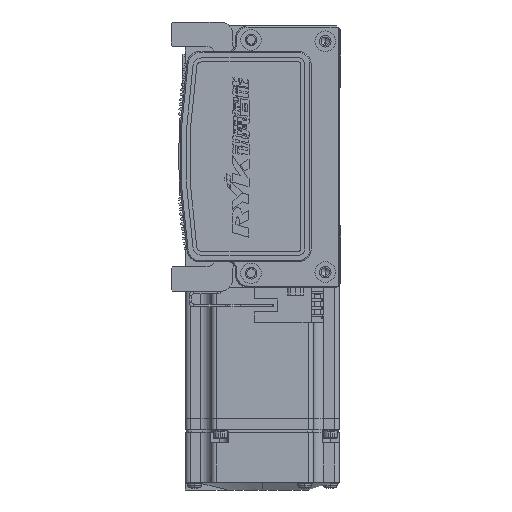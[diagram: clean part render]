
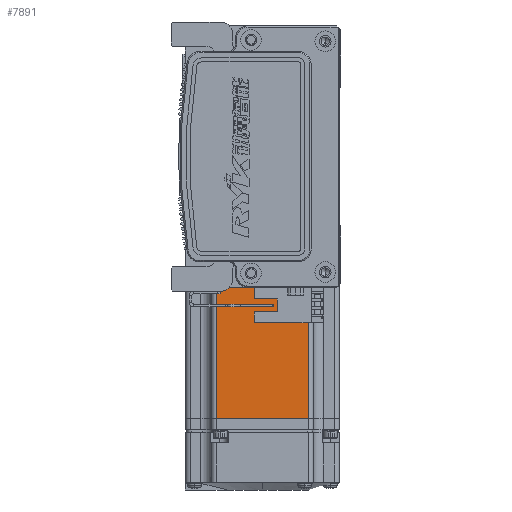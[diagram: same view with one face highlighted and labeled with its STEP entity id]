
A CAD part, left-side view. The second image highlights one B-rep face of the part: STEP entity #7891.
In plain terms, the highlighted planar face has unit normal (-1, 0, 0) as drawn and (0, 0, 1) by its records, which use the part's own axes.
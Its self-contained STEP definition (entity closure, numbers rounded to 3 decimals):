
#911 = LINE ( 'NONE', #56880, #29102 ) ;
#1606 = EDGE_CURVE ( 'NONE', #20254, #50982, #911, .T. ) ;
#4353 = DIRECTION ( 'NONE',  ( -1., 0., 0. ) ) ;
#4564 = CARTESIAN_POINT ( 'NONE',  ( -6.5, 18., 30. ) ) ;
#7065 = CARTESIAN_POINT ( 'NONE',  ( -7.75, -18., 30. ) ) ;
#7891 = ADVANCED_FACE ( 'NONE', ( #34193 ), #61605, .T. ) ;
#17544 = DIRECTION ( 'NONE',  ( 0., -1., 0. ) ) ;
#20254 = VERTEX_POINT ( 'NONE', #31106 ) ;
#21629 = DIRECTION ( 'NONE',  ( 0., 0., 1. ) ) ;
#26661 = DIRECTION ( 'NONE',  ( 1., 0., 0. ) ) ;
#28836 = VECTOR ( 'NONE', #4353, 1000. ) ;
#29102 = VECTOR ( 'NONE', #17544, 1000. ) ;
#30192 = ORIENTED_EDGE ( 'NONE', *, *, #38637, .F. ) ;
#31106 = CARTESIAN_POINT ( 'NONE',  ( -70.95, 18., 30. ) ) ;
#31430 = LINE ( 'NONE', #39740, #57971 ) ;
#33844 = VECTOR ( 'NONE', #34999, 1000. ) ;
#34193 = FACE_OUTER_BOUND ( 'NONE', #63645, .T. ) ;
#34349 = LINE ( 'NONE', #4564, #28836 ) ;
#34999 = DIRECTION ( 'NONE',  ( -1., 0., 0. ) ) ;
#36584 = AXIS2_PLACEMENT_3D ( 'NONE', #52047, #21629, #26661 ) ;
#38637 = EDGE_CURVE ( 'NONE', #64547, #50982, #47176, .T. ) ;
#39740 = CARTESIAN_POINT ( 'NONE',  ( -7.75, 0., 30. ) ) ;
#40266 = CARTESIAN_POINT ( 'NONE',  ( -6.5, -18., 30. ) ) ;
#40459 = EDGE_CURVE ( 'NONE', #51143, #20254, #34349, .T. ) ;
#45629 = EDGE_CURVE ( 'NONE', #51143, #64547, #31430, .T. ) ;
#47176 = LINE ( 'NONE', #40266, #33844 ) ;
#50982 = VERTEX_POINT ( 'NONE', #63104 ) ;
#51143 = VERTEX_POINT ( 'NONE', #55257 ) ;
#52047 = CARTESIAN_POINT ( 'NONE',  ( -6.5, -25., 30. ) ) ;
#55257 = CARTESIAN_POINT ( 'NONE',  ( -7.75, 18., 30. ) ) ;
#56880 = CARTESIAN_POINT ( 'NONE',  ( -70.95, 0., 30. ) ) ;
#57971 = VECTOR ( 'NONE', #59999, 1000. ) ;
#59443 = ORIENTED_EDGE ( 'NONE', *, *, #45629, .F. ) ;
#59999 = DIRECTION ( 'NONE',  ( 0., -1., 0. ) ) ;
#61605 = PLANE ( 'NONE',  #36584 ) ;
#63104 = CARTESIAN_POINT ( 'NONE',  ( -70.95, -18., 30. ) ) ;
#63261 = ORIENTED_EDGE ( 'NONE', *, *, #40459, .T. ) ;
#63645 = EDGE_LOOP ( 'NONE', ( #59443, #63261, #63860, #30192 ) ) ;
#63860 = ORIENTED_EDGE ( 'NONE', *, *, #1606, .T. ) ;
#64547 = VERTEX_POINT ( 'NONE', #7065 ) ;
